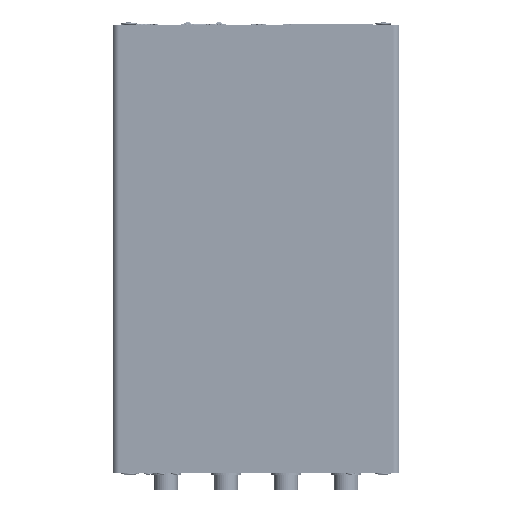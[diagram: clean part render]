
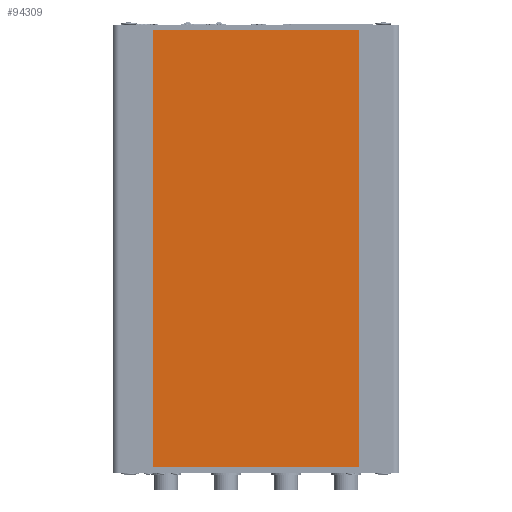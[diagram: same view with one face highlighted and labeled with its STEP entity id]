
A CAD part, front view. The second image highlights one B-rep face of the part: STEP entity #94309.
In plain terms, the highlighted planar face has unit normal (0, -1, 0).
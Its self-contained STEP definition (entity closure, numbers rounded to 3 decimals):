
#397 = CARTESIAN_POINT ( 'NONE',  ( 28.189, 76.941, 35.92 ) ) ;
#1024 = VECTOR ( 'NONE', #28582, 1000. ) ;
#3144 = CARTESIAN_POINT ( 'NONE',  ( 103.689, 76.941, 35.92 ) ) ;
#5327 = CARTESIAN_POINT ( 'NONE',  ( 103.689, 76.941, 195.92 ) ) ;
#6909 = EDGE_CURVE ( 'NONE', #118780, #18129, #105433, .T. ) ;
#15111 = VERTEX_POINT ( 'NONE', #72674 ) ;
#18129 = VERTEX_POINT ( 'NONE', #5327 ) ;
#20433 = AXIS2_PLACEMENT_3D ( 'NONE', #33861, #90554, #111883 ) ;
#25179 = VECTOR ( 'NONE', #130885, 1000. ) ;
#25389 = ORIENTED_EDGE ( 'NONE', *, *, #97724, .T. ) ;
#28582 = DIRECTION ( 'NONE',  ( -1., 0., 0. ) ) ;
#29301 = CARTESIAN_POINT ( 'NONE',  ( 103.689, 76.941, 195.92 ) ) ;
#29506 = CARTESIAN_POINT ( 'NONE',  ( 28.189, 76.941, 35.92 ) ) ;
#30787 = ORIENTED_EDGE ( 'NONE', *, *, #6909, .T. ) ;
#32797 = LINE ( 'NONE', #397, #34217 ) ;
#33861 = CARTESIAN_POINT ( 'NONE',  ( 103.689, 76.941, 35.92 ) ) ;
#34217 = VECTOR ( 'NONE', #34259, 1000. ) ;
#34259 = DIRECTION ( 'NONE',  ( 0., 0., 1. ) ) ;
#38804 = EDGE_CURVE ( 'NONE', #115876, #15111, #32797, .T. ) ;
#41068 = LINE ( 'NONE', #29301, #1024 ) ;
#41772 = LINE ( 'NONE', #87427, #25179 ) ;
#57433 = PLANE ( 'NONE',  #20433 ) ;
#68477 = FACE_OUTER_BOUND ( 'NONE', #94301, .T. ) ;
#72322 = DIRECTION ( 'NONE',  ( 0., 0., 1. ) ) ;
#72674 = CARTESIAN_POINT ( 'NONE',  ( 28.189, 76.941, 195.92 ) ) ;
#80811 = CARTESIAN_POINT ( 'NONE',  ( 103.689, 76.941, 35.92 ) ) ;
#87427 = CARTESIAN_POINT ( 'NONE',  ( 28.189, 76.941, 35.92 ) ) ;
#89071 = EDGE_CURVE ( 'NONE', #18129, #15111, #41068, .T. ) ;
#90554 = DIRECTION ( 'NONE',  ( 0., -1., 0. ) ) ;
#94301 = EDGE_LOOP ( 'NONE', ( #129907, #135889, #25389, #30787 ) ) ;
#94309 = ADVANCED_FACE ( 'NONE', ( #68477 ), #57433, .T. ) ;
#97724 = EDGE_CURVE ( 'NONE', #115876, #118780, #41772, .T. ) ;
#105433 = LINE ( 'NONE', #3144, #143827 ) ;
#111883 = DIRECTION ( 'NONE',  ( 0., 0., -1. ) ) ;
#115876 = VERTEX_POINT ( 'NONE', #29506 ) ;
#118780 = VERTEX_POINT ( 'NONE', #80811 ) ;
#129907 = ORIENTED_EDGE ( 'NONE', *, *, #89071, .T. ) ;
#130885 = DIRECTION ( 'NONE',  ( 1., 0., 0. ) ) ;
#135889 = ORIENTED_EDGE ( 'NONE', *, *, #38804, .F. ) ;
#143827 = VECTOR ( 'NONE', #72322, 1000. ) ;
